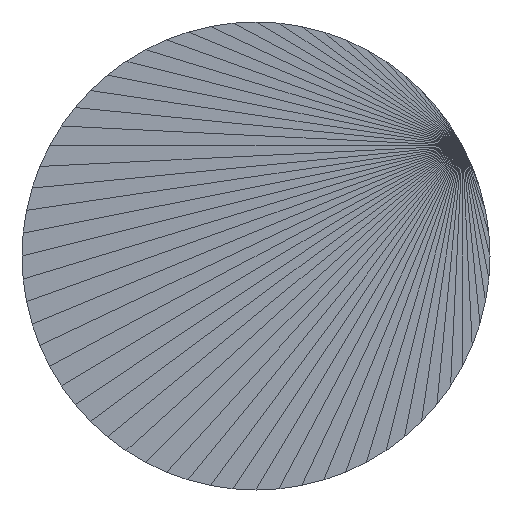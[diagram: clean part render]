
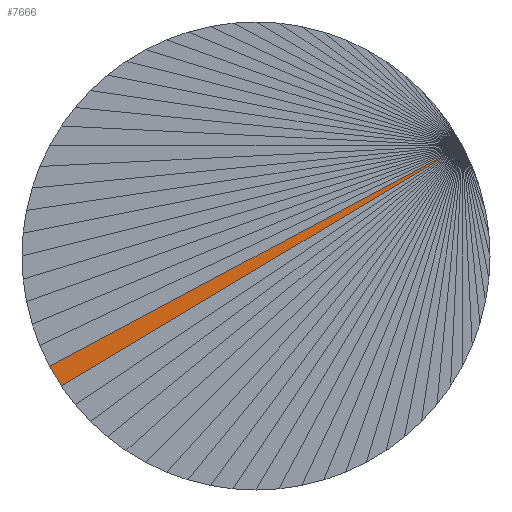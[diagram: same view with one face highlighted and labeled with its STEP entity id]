
A CAD part, front view. The second image highlights one B-rep face of the part: STEP entity #7666.
In plain terms, the highlighted planar face has unit normal (0, -1, 0).
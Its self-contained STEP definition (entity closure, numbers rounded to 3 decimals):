
#1847 = VERTEX_POINT('',#1848);
#1848 = CARTESIAN_POINT('',(-810.534,-83.7,401.095));
#6159 = VERTEX_POINT('',#6160);
#6160 = CARTESIAN_POINT('',(-887.208,-83.7,355.138));
#6174 = PLANE('',#6175);
#6175 = AXIS2_PLACEMENT_3D('',#6176,#6177,#6178);
#6176 = CARTESIAN_POINT('',(-849.123,-83.7,376.663));
#6177 = DIRECTION('',(-0.,-1.,-0.));
#6178 = DIRECTION('',(0.,0.,-1.));
#6389 = PLANE('',#6390);
#6390 = AXIS2_PLACEMENT_3D('',#6391,#6392,#6393);
#6391 = CARTESIAN_POINT('',(-888.797,-78.894,
    357.788));
#6392 = DIRECTION('',(-0.858,-0.,-0.514));
#6393 = DIRECTION('',(0.514,0.,-0.858));
#6405 = VERTEX_POINT('',#6406);
#6406 = CARTESIAN_POINT('',(-889.466,-83.7,358.905));
#6445 = PLANE('',#6446);
#6446 = AXIS2_PLACEMENT_3D('',#6447,#6448,#6449);
#6447 = CARTESIAN_POINT('',(-851.426,-83.7,380.51));
#6448 = DIRECTION('',(-0.,-1.,-0.));
#6449 = DIRECTION('',(0.,0.,-1.));
#6510 = EDGE_CURVE('',#6159,#6405,#6511,.T.);
#6511 = SURFACE_CURVE('',#6512,(#6516,#6523),.PCURVE_S1.);
#6512 = LINE('',#6513,#6514);
#6513 = CARTESIAN_POINT('',(-887.208,-83.7,355.138));
#6514 = VECTOR('',#6515,1.);
#6515 = DIRECTION('',(-0.514,0.,0.858));
#6516 = PCURVE('',#6389,#6517);
#6517 = DEFINITIONAL_REPRESENTATION('',(#6518),#6522);
#6518 = LINE('',#6519,#6520);
#6519 = CARTESIAN_POINT('',(3.09,4.806));
#6520 = VECTOR('',#6521,1.);
#6521 = DIRECTION('',(-1.,0.));
#6522 = ( GEOMETRIC_REPRESENTATION_CONTEXT(2) 
PARAMETRIC_REPRESENTATION_CONTEXT() REPRESENTATION_CONTEXT('2D SPACE',''
  ) );
#6523 = PCURVE('',#6524,#6529);
#6524 = PLANE('',#6525);
#6525 = AXIS2_PLACEMENT_3D('',#6526,#6527,#6528);
#6526 = CARTESIAN_POINT('',(-850.368,-83.7,378.531));
#6527 = DIRECTION('',(-0.,-1.,-0.));
#6528 = DIRECTION('',(0.,0.,-1.));
#6529 = DEFINITIONAL_REPRESENTATION('',(#6530),#6533);
#6530 = B_SPLINE_CURVE_WITH_KNOTS('',1,(#6531,#6532),.UNSPECIFIED.,.F.,
  .F.,(2,2),(0.,4.392),.PIECEWISE_BEZIER_KNOTS.);
#6531 = CARTESIAN_POINT('',(23.393,-36.84));
#6532 = CARTESIAN_POINT('',(19.626,-39.098));
#6533 = ( GEOMETRIC_REPRESENTATION_CONTEXT(2) 
PARAMETRIC_REPRESENTATION_CONTEXT() REPRESENTATION_CONTEXT('2D SPACE',''
  ) );
#7329 = EDGE_CURVE('',#6405,#1847,#7330,.T.);
#7330 = SURFACE_CURVE('',#7331,(#7335,#7342),.PCURVE_S1.);
#7331 = LINE('',#7332,#7333);
#7332 = CARTESIAN_POINT('',(-889.466,-83.7,358.905));
#7333 = VECTOR('',#7334,1.);
#7334 = DIRECTION('',(0.882,0.,0.471));
#7335 = PCURVE('',#6445,#7336);
#7336 = DEFINITIONAL_REPRESENTATION('',(#7337),#7341);
#7337 = LINE('',#7338,#7339);
#7338 = CARTESIAN_POINT('',(21.605,-38.04));
#7339 = VECTOR('',#7340,1.);
#7340 = DIRECTION('',(-0.471,0.882));
#7341 = ( GEOMETRIC_REPRESENTATION_CONTEXT(2) 
PARAMETRIC_REPRESENTATION_CONTEXT() REPRESENTATION_CONTEXT('2D SPACE',''
  ) );
#7342 = PCURVE('',#6524,#7343);
#7343 = DEFINITIONAL_REPRESENTATION('',(#7344),#7347);
#7344 = B_SPLINE_CURVE_WITH_KNOTS('',1,(#7345,#7346),.UNSPECIFIED.,.F.,
  .F.,(2,2),(0.,89.5),.PIECEWISE_BEZIER_KNOTS.);
#7345 = CARTESIAN_POINT('',(19.626,-39.098));
#7346 = CARTESIAN_POINT('',(-22.564,39.834));
#7347 = ( GEOMETRIC_REPRESENTATION_CONTEXT(2) 
PARAMETRIC_REPRESENTATION_CONTEXT() REPRESENTATION_CONTEXT('2D SPACE',''
  ) );
#7666 = ADVANCED_FACE('',(#7667),#6524,.T.);
#7667 = FACE_BOUND('',#7668,.T.);
#7668 = EDGE_LOOP('',(#7669,#7670,#7671));
#7669 = ORIENTED_EDGE('',*,*,#7329,.F.);
#7670 = ORIENTED_EDGE('',*,*,#6510,.F.);
#7671 = ORIENTED_EDGE('',*,*,#7672,.T.);
#7672 = EDGE_CURVE('',#6159,#1847,#7673,.T.);
#7673 = SURFACE_CURVE('',#7674,(#7678,#7685),.PCURVE_S1.);
#7674 = LINE('',#7675,#7676);
#7675 = CARTESIAN_POINT('',(-887.208,-83.7,355.138));
#7676 = VECTOR('',#7677,1.);
#7677 = DIRECTION('',(0.858,0.,0.514));
#7678 = PCURVE('',#6524,#7679);
#7679 = DEFINITIONAL_REPRESENTATION('',(#7680),#7684);
#7680 = LINE('',#7681,#7682);
#7681 = CARTESIAN_POINT('',(23.393,-36.84));
#7682 = VECTOR('',#7683,1.);
#7683 = DIRECTION('',(-0.514,0.858));
#7684 = ( GEOMETRIC_REPRESENTATION_CONTEXT(2) 
PARAMETRIC_REPRESENTATION_CONTEXT() REPRESENTATION_CONTEXT('2D SPACE',''
  ) );
#7685 = PCURVE('',#6174,#7686);
#7686 = DEFINITIONAL_REPRESENTATION('',(#7687),#7690);
#7687 = B_SPLINE_CURVE_WITH_KNOTS('',1,(#7688,#7689),.UNSPECIFIED.,.F.,
  .F.,(2,2),(0.,89.392),.PIECEWISE_BEZIER_KNOTS.);
#7688 = CARTESIAN_POINT('',(21.525,-38.085));
#7689 = CARTESIAN_POINT('',(-24.432,38.589));
#7690 = ( GEOMETRIC_REPRESENTATION_CONTEXT(2) 
PARAMETRIC_REPRESENTATION_CONTEXT() REPRESENTATION_CONTEXT('2D SPACE',''
  ) );
